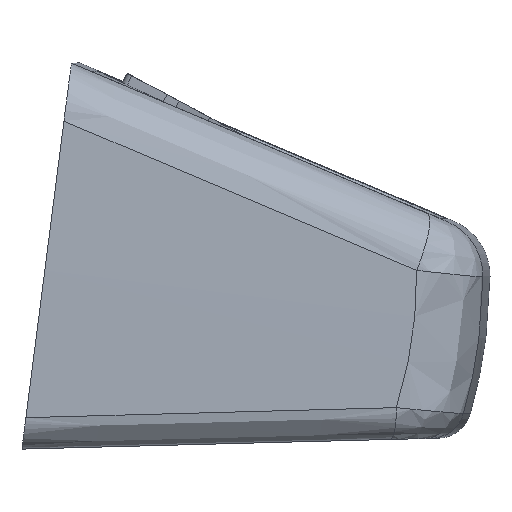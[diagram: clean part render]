
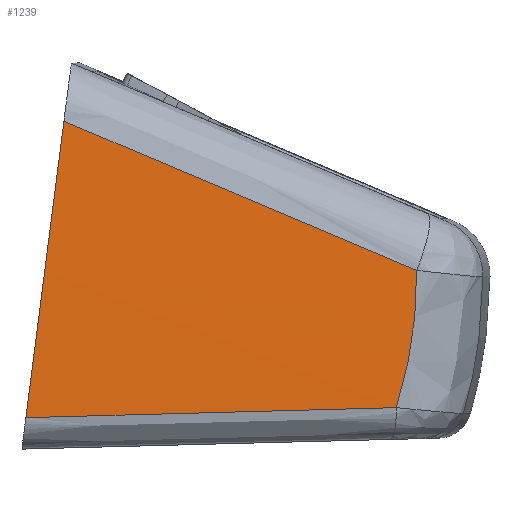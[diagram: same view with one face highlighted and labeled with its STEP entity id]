
A CAD part, front view. The second image highlights one B-rep face of the part: STEP entity #1239.
In plain terms, the highlighted free-form (B-spline) face has degree [5, 5] with [6, 9] control points.
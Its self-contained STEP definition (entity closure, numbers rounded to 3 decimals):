
#273=CARTESIAN_POINT('Vertex',(1174.673,-772.688,348.018)) ;
#388=CARTESIAN_POINT('Control Point',(1174.673,-772.688,348.018)) ;
#389=CARTESIAN_POINT('Control Point',(1174.695,-772.606,346.36)) ;
#390=CARTESIAN_POINT('Control Point',(1174.586,-772.548,344.721)) ;
#391=CARTESIAN_POINT('Control Point',(1174.346,-772.513,343.101)) ;
#392=CARTESIAN_POINT('Control Point',(1173.975,-772.502,341.498)) ;
#393=CARTESIAN_POINT('Control Point',(1173.475,-772.514,339.911)) ;
#394=CARTESIAN_POINT('Vertex',(1173.475,-772.514,339.911)) ;
#1087=CARTESIAN_POINT('Vertex',(1153.842,-777.717,356.832)) ;
#1091=CARTESIAN_POINT('Control Point',(1174.673,-772.688,348.018)) ;
#1092=CARTESIAN_POINT('Control Point',(1172.551,-773.202,348.916)) ;
#1093=CARTESIAN_POINT('Control Point',(1170.428,-773.715,349.815)) ;
#1094=CARTESIAN_POINT('Control Point',(1168.304,-774.228,350.713)) ;
#1095=CARTESIAN_POINT('Control Point',(1165.117,-774.998,352.062)) ;
#1096=CARTESIAN_POINT('Control Point',(1161.929,-775.767,353.411)) ;
#1097=CARTESIAN_POINT('Control Point',(1160.866,-776.024,353.86)) ;
#1098=CARTESIAN_POINT('Control Point',(1159.271,-776.408,354.535)) ;
#1099=CARTESIAN_POINT('Control Point',(1157.676,-776.793,355.21)) ;
#1100=CARTESIAN_POINT('Control Point',(1157.145,-776.921,355.434)) ;
#1101=CARTESIAN_POINT('Control Point',(1156.164,-777.157,355.85)) ;
#1102=CARTESIAN_POINT('Control Point',(1155.186,-777.393,356.263)) ;
#1103=CARTESIAN_POINT('Control Point',(1154.735,-777.501,356.454)) ;
#1104=CARTESIAN_POINT('Control Point',(1154.29,-777.609,356.643)) ;
#1105=CARTESIAN_POINT('Control Point',(1153.842,-777.717,356.832)) ;
#1148=CARTESIAN_POINT('Control Point',(1186.954,-769.975,348.608)) ;
#1149=CARTESIAN_POINT('Control Point',(1184.736,-770.494,349.16)) ;
#1150=CARTESIAN_POINT('Control Point',(1182.518,-771.012,349.713)) ;
#1151=CARTESIAN_POINT('Control Point',(1180.3,-771.531,350.266)) ;
#1152=CARTESIAN_POINT('Control Point',(1173.647,-773.087,351.924)) ;
#1153=CARTESIAN_POINT('Control Point',(1166.993,-774.643,353.582)) ;
#1154=CARTESIAN_POINT('Control Point',(1162.558,-775.68,354.687)) ;
#1155=CARTESIAN_POINT('Control Point',(1158.122,-776.717,355.792)) ;
#1156=CARTESIAN_POINT('Control Point',(1153.687,-777.754,356.898)) ;
#1157=CARTESIAN_POINT('Control Point',(1186.351,-769.972,345.159)) ;
#1158=CARTESIAN_POINT('Control Point',(1184.132,-770.49,345.709)) ;
#1159=CARTESIAN_POINT('Control Point',(1181.913,-771.009,346.258)) ;
#1160=CARTESIAN_POINT('Control Point',(1179.695,-771.528,346.807)) ;
#1161=CARTESIAN_POINT('Control Point',(1173.039,-773.084,348.455)) ;
#1162=CARTESIAN_POINT('Control Point',(1166.383,-774.639,350.103)) ;
#1163=CARTESIAN_POINT('Control Point',(1161.946,-775.677,351.201)) ;
#1164=CARTESIAN_POINT('Control Point',(1157.508,-776.714,352.3)) ;
#1165=CARTESIAN_POINT('Control Point',(1153.071,-777.751,353.398)) ;
#1166=CARTESIAN_POINT('Control Point',(1185.623,-769.968,341.733)) ;
#1167=CARTESIAN_POINT('Control Point',(1183.403,-770.487,342.279)) ;
#1168=CARTESIAN_POINT('Control Point',(1181.184,-771.005,342.824)) ;
#1169=CARTESIAN_POINT('Control Point',(1178.964,-771.524,343.37)) ;
#1170=CARTESIAN_POINT('Control Point',(1172.306,-773.08,345.008)) ;
#1171=CARTESIAN_POINT('Control Point',(1165.647,-774.636,346.646)) ;
#1172=CARTESIAN_POINT('Control Point',(1161.208,-775.673,347.738)) ;
#1173=CARTESIAN_POINT('Control Point',(1156.769,-776.711,348.829)) ;
#1174=CARTESIAN_POINT('Control Point',(1152.331,-777.748,349.921)) ;
#1175=CARTESIAN_POINT('Control Point',(1184.771,-769.964,338.334)) ;
#1176=CARTESIAN_POINT('Control Point',(1182.55,-770.483,338.876)) ;
#1177=CARTESIAN_POINT('Control Point',(1180.33,-771.002,339.419)) ;
#1178=CARTESIAN_POINT('Control Point',(1178.11,-771.52,339.961)) ;
#1179=CARTESIAN_POINT('Control Point',(1171.449,-773.076,341.589)) ;
#1180=CARTESIAN_POINT('Control Point',(1164.788,-774.632,343.217)) ;
#1181=CARTESIAN_POINT('Control Point',(1160.347,-775.67,344.302)) ;
#1182=CARTESIAN_POINT('Control Point',(1155.907,-776.707,345.387)) ;
#1183=CARTESIAN_POINT('Control Point',(1151.466,-777.744,346.472)) ;
#1184=CARTESIAN_POINT('Control Point',(1183.796,-769.961,334.969)) ;
#1185=CARTESIAN_POINT('Control Point',(1181.575,-770.479,335.508)) ;
#1186=CARTESIAN_POINT('Control Point',(1179.354,-770.998,336.047)) ;
#1187=CARTESIAN_POINT('Control Point',(1177.133,-771.517,336.586)) ;
#1188=CARTESIAN_POINT('Control Point',(1170.469,-773.072,338.204)) ;
#1189=CARTESIAN_POINT('Control Point',(1163.806,-774.628,339.821)) ;
#1190=CARTESIAN_POINT('Control Point',(1159.364,-775.665,340.9)) ;
#1191=CARTESIAN_POINT('Control Point',(1154.921,-776.703,341.978)) ;
#1192=CARTESIAN_POINT('Control Point',(1150.479,-777.74,343.056)) ;
#1193=CARTESIAN_POINT('Control Point',(1182.701,-769.957,331.644)) ;
#1194=CARTESIAN_POINT('Control Point',(1180.479,-770.475,332.18)) ;
#1195=CARTESIAN_POINT('Control Point',(1178.257,-770.994,332.715)) ;
#1196=CARTESIAN_POINT('Control Point',(1176.035,-771.513,333.251)) ;
#1197=CARTESIAN_POINT('Control Point',(1169.369,-773.068,334.858)) ;
#1198=CARTESIAN_POINT('Control Point',(1162.703,-774.624,336.466)) ;
#1199=CARTESIAN_POINT('Control Point',(1158.26,-775.661,337.537)) ;
#1200=CARTESIAN_POINT('Control Point',(1153.816,-776.698,338.609)) ;
#1201=CARTESIAN_POINT('Control Point',(1149.372,-777.735,339.68)) ;
#1203=CARTESIAN_POINT('Control Point',(1173.475,-772.514,339.911)) ;
#1204=CARTESIAN_POINT('Control Point',(1166.223,-774.087,339.714)) ;
#1205=CARTESIAN_POINT('Control Point',(1158.931,-775.658,339.517)) ;
#1206=CARTESIAN_POINT('Control Point',(1151.598,-777.228,339.318)) ;
#1207=CARTESIAN_POINT('Vertex',(1151.598,-777.228,339.318)) ;
#1211=CARTESIAN_POINT('Control Point',(1153.842,-777.717,356.832)) ;
#1212=CARTESIAN_POINT('Control Point',(1153.819,-777.715,356.656)) ;
#1213=CARTESIAN_POINT('Control Point',(1153.797,-777.712,356.481)) ;
#1214=CARTESIAN_POINT('Control Point',(1153.774,-777.71,356.304)) ;
#1215=CARTESIAN_POINT('Control Point',(1153.741,-777.707,356.042)) ;
#1216=CARTESIAN_POINT('Control Point',(1153.707,-777.703,355.777)) ;
#1217=CARTESIAN_POINT('Control Point',(1153.694,-777.702,355.68)) ;
#1218=CARTESIAN_POINT('Control Point',(1153.676,-777.7,355.54)) ;
#1219=CARTESIAN_POINT('Control Point',(1153.658,-777.698,355.401)) ;
#1220=CARTESIAN_POINT('Control Point',(1153.652,-777.698,355.354)) ;
#1221=CARTESIAN_POINT('Control Point',(1153.64,-777.696,355.26)) ;
#1222=CARTESIAN_POINT('Control Point',(1153.629,-777.695,355.168)) ;
#1223=CARTESIAN_POINT('Control Point',(1153.624,-777.694,355.132)) ;
#1224=CARTESIAN_POINT('Control Point',(1153.438,-777.673,353.682)) ;
#1225=CARTESIAN_POINT('Control Point',(1153.252,-777.647,352.231)) ;
#1226=CARTESIAN_POINT('Control Point',(1153.072,-777.616,350.828)) ;
#1227=CARTESIAN_POINT('Control Point',(1152.668,-777.538,347.671)) ;
#1228=CARTESIAN_POINT('Control Point',(1152.265,-777.438,344.527)) ;
#1229=CARTESIAN_POINT('Control Point',(1152.041,-777.375,342.784)) ;
#1230=CARTESIAN_POINT('Control Point',(1151.819,-777.305,341.047)) ;
#1231=CARTESIAN_POINT('Control Point',(1151.598,-777.228,339.318)) ;
#1234=ORIENTED_EDGE('',*,*,#1209,.T.) ;
#1235=ORIENTED_EDGE('',*,*,#396,.T.) ;
#1236=ORIENTED_EDGE('',*,*,#1106,.F.) ;
#1237=ORIENTED_EDGE('',*,*,#1232,.T.) ;
#1239=ADVANCED_FACE('2020.1218-\X2\66F465396570636E\X0\',(#1238),#1147,.F.) ;
#387=B_SPLINE_CURVE_WITH_KNOTS('',5,(#388,#389,#390,#391,#392,#393),.UNSPECIFIED.,.F.,.U.,(6,6),(17.101,26.251),.UNSPECIFIED.) ;
#1090=B_SPLINE_CURVE_WITH_KNOTS('',5,(#1091,#1092,#1093,#1094,#1095,#1096,#1097,#1098,#1099,#1100,#1101,#1102,#1103,#1104,#1105),.UNSPECIFIED.,.F.,.U.,(6,3,3,3,6),(12.684,24.503,30.413,33.367,35.855),.UNSPECIFIED.) ;
#1202=B_SPLINE_CURVE_WITH_KNOTS('',3,(#1203,#1204,#1205,#1206),.UNSPECIFIED.,.F.,.U.,(4,4),(0.,31.452),.UNSPECIFIED.) ;
#1210=B_SPLINE_CURVE_WITH_KNOTS('',5,(#1211,#1212,#1213,#1214,#1215,#1216,#1217,#1218,#1219,#1220,#1221,#1222,#1223,#1224,#1225,#1226,#1227,#1228,#1229,#1230,#1231),.UNSPECIFIED.,.F.,.U.,(6,3,3,3,3,3,6),(0.,1.252,1.872,2.185,2.513,12.463,24.927),.UNSPECIFIED.) ;
#1147=B_SPLINE_SURFACE_WITH_KNOTS('',5,5,((#1148,#1149,#1150,#1151,#1152,#1153,#1154,#1155,#1156),(#1157,#1158,#1159,#1160,#1161,#1162,#1163,#1164,#1165),(#1166,#1167,#1168,#1169,#1170,#1171,#1172,#1173,#1174),(#1175,#1176,#1177,#1178,#1179,#1180,#1181,#1182,#1183),(#1184,#1185,#1186,#1187,#1188,#1189,#1190,#1191,#1192),(#1193,#1194,#1195,#1196,#1197,#1198,#1199,#1200,#1201)),.UNSPECIFIED.,.F.,.F.,.U.,(6,6),(6,3,6),(148.372,166.),(-33.839,-22.121,1.317),.UNSPECIFIED.) ;
#396=EDGE_CURVE('',#395,#274,#387,.F.) ;
#1106=EDGE_CURVE('',#1088,#274,#1090,.F.) ;
#1209=EDGE_CURVE('',#1208,#395,#1202,.F.) ;
#1232=EDGE_CURVE('',#1088,#1208,#1210,.T.) ;
#1233=EDGE_LOOP('',(#1234,#1235,#1236,#1237)) ;
#1238=FACE_OUTER_BOUND('',#1233,.T.) ;
#274=VERTEX_POINT('',#273) ;
#395=VERTEX_POINT('',#394) ;
#1088=VERTEX_POINT('',#1087) ;
#1208=VERTEX_POINT('',#1207) ;
